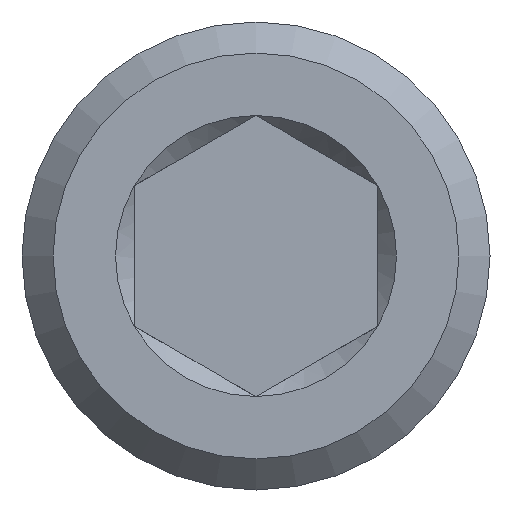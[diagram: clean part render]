
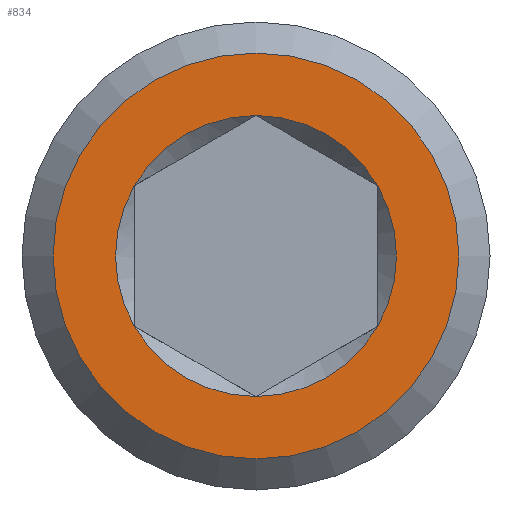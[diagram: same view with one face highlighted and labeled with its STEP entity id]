
A CAD part, front view. The second image highlights one B-rep face of the part: STEP entity #834.
In plain terms, the highlighted planar face has unit normal (0, -1, 0).
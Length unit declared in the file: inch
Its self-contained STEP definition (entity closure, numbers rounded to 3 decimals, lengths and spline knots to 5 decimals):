
#22=FACE_BOUND('',#176,.T.);
#66=CIRCLE('',#896,0.09);
#67=CIRCLE('',#898,0.09);
#68=CIRCLE('',#900,0.09);
#69=CIRCLE('',#902,0.09);
#70=CIRCLE('',#904,0.09);
#71=CIRCLE('',#906,0.09);
#80=CIRCLE('',#927,0.13);
#126=FACE_OUTER_BOUND('',#175,.T.);
#175=EDGE_LOOP('',(#710));
#176=EDGE_LOOP('',(#711,#712,#713,#714,#715,#716,#717,#718,#719,#720,#721,
#722,#723,#724,#725,#726,#727,#728));
#227=LINE('',#1382,#286);
#231=LINE('',#1389,#290);
#232=LINE('',#1396,#291);
#235=LINE('',#1401,#294);
#236=LINE('',#1408,#295);
#239=LINE('',#1413,#298);
#240=LINE('',#1421,#299);
#243=LINE('',#1425,#302);
#244=LINE('',#1433,#303);
#247=LINE('',#1437,#306);
#248=LINE('',#1444,#307);
#250=LINE('',#1446,#309);
#286=VECTOR('',#1024,0.3937);
#290=VECTOR('',#1028,0.3937);
#291=VECTOR('',#1031,0.3937);
#294=VECTOR('',#1034,0.3937);
#295=VECTOR('',#1037,0.3937);
#298=VECTOR('',#1040,0.3937);
#299=VECTOR('',#1043,0.3937);
#302=VECTOR('',#1046,0.3937);
#303=VECTOR('',#1049,0.3937);
#306=VECTOR('',#1052,0.3937);
#307=VECTOR('',#1055,0.3937);
#309=VECTOR('',#1057,0.3937);
#359=VERTEX_POINT('',#1376);
#360=VERTEX_POINT('',#1377);
#361=VERTEX_POINT('',#1381);
#364=VERTEX_POINT('',#1387);
#365=VERTEX_POINT('',#1391);
#366=VERTEX_POINT('',#1392);
#368=VERTEX_POINT('',#1399);
#369=VERTEX_POINT('',#1403);
#370=VERTEX_POINT('',#1404);
#372=VERTEX_POINT('',#1411);
#373=VERTEX_POINT('',#1415);
#374=VERTEX_POINT('',#1416);
#375=VERTEX_POINT('',#1420);
#377=VERTEX_POINT('',#1427);
#378=VERTEX_POINT('',#1428);
#379=VERTEX_POINT('',#1432);
#381=VERTEX_POINT('',#1439);
#382=VERTEX_POINT('',#1440);
#393=VERTEX_POINT('',#1533);
#454=EDGE_CURVE('',#361,#359,#227,.T.);
#458=EDGE_CURVE('',#360,#364,#231,.T.);
#460=EDGE_CURVE('',#364,#365,#232,.T.);
#463=EDGE_CURVE('',#366,#368,#235,.T.);
#465=EDGE_CURVE('',#368,#369,#236,.T.);
#468=EDGE_CURVE('',#370,#372,#239,.T.);
#470=EDGE_CURVE('',#375,#373,#240,.T.);
#473=EDGE_CURVE('',#374,#361,#243,.T.);
#475=EDGE_CURVE('',#379,#377,#244,.T.);
#478=EDGE_CURVE('',#378,#375,#247,.T.);
#480=EDGE_CURVE('',#372,#381,#248,.T.);
#482=EDGE_CURVE('',#382,#379,#250,.T.);
#483=EDGE_CURVE('',#366,#365,#66,.T.);
#484=EDGE_CURVE('',#370,#369,#67,.T.);
#485=EDGE_CURVE('',#382,#381,#68,.T.);
#486=EDGE_CURVE('',#378,#377,#69,.T.);
#487=EDGE_CURVE('',#374,#373,#70,.T.);
#488=EDGE_CURVE('',#360,#359,#71,.T.);
#509=EDGE_CURVE('',#393,#393,#80,.T.);
#710=ORIENTED_EDGE('',*,*,#509,.F.);
#711=ORIENTED_EDGE('',*,*,#454,.T.);
#712=ORIENTED_EDGE('',*,*,#488,.F.);
#713=ORIENTED_EDGE('',*,*,#458,.T.);
#714=ORIENTED_EDGE('',*,*,#460,.T.);
#715=ORIENTED_EDGE('',*,*,#483,.F.);
#716=ORIENTED_EDGE('',*,*,#463,.T.);
#717=ORIENTED_EDGE('',*,*,#465,.T.);
#718=ORIENTED_EDGE('',*,*,#484,.F.);
#719=ORIENTED_EDGE('',*,*,#468,.T.);
#720=ORIENTED_EDGE('',*,*,#480,.T.);
#721=ORIENTED_EDGE('',*,*,#485,.F.);
#722=ORIENTED_EDGE('',*,*,#482,.T.);
#723=ORIENTED_EDGE('',*,*,#475,.T.);
#724=ORIENTED_EDGE('',*,*,#486,.F.);
#725=ORIENTED_EDGE('',*,*,#478,.T.);
#726=ORIENTED_EDGE('',*,*,#470,.T.);
#727=ORIENTED_EDGE('',*,*,#487,.F.);
#728=ORIENTED_EDGE('',*,*,#473,.T.);
#793=PLANE('',#926);
#834=ADVANCED_FACE('',(#126,#22),#793,.T.);
#896=AXIS2_PLACEMENT_3D('',#1448,#1060,#1061);
#898=AXIS2_PLACEMENT_3D('',#1450,#1064,#1065);
#900=AXIS2_PLACEMENT_3D('',#1452,#1068,#1069);
#902=AXIS2_PLACEMENT_3D('',#1454,#1072,#1073);
#904=AXIS2_PLACEMENT_3D('',#1456,#1076,#1077);
#906=AXIS2_PLACEMENT_3D('',#1458,#1080,#1081);
#926=AXIS2_PLACEMENT_3D('',#1532,#1128,#1129);
#927=AXIS2_PLACEMENT_3D('',#1534,#1130,#1131);
#1024=DIRECTION('',(0.,0.,1.));
#1028=DIRECTION('',(0.,0.,1.));
#1031=DIRECTION('',(0.866,0.,0.5));
#1034=DIRECTION('',(0.866,0.,0.5));
#1037=DIRECTION('',(0.866,0.,-0.5));
#1040=DIRECTION('',(0.866,0.,-0.5));
#1043=DIRECTION('',(-0.866,0.,0.5));
#1046=DIRECTION('',(-0.866,0.,0.5));
#1049=DIRECTION('',(-0.866,0.,-0.5));
#1052=DIRECTION('',(-0.866,0.,-0.5));
#1055=DIRECTION('',(0.,0.,-1.));
#1057=DIRECTION('',(0.,0.,-1.));
#1060=DIRECTION('center_axis',(0.,-1.,0.));
#1061=DIRECTION('ref_axis',(0.,0.,1.));
#1064=DIRECTION('center_axis',(0.,-1.,0.));
#1065=DIRECTION('ref_axis',(0.,0.,1.));
#1068=DIRECTION('center_axis',(0.,-1.,0.));
#1069=DIRECTION('ref_axis',(0.,0.,1.));
#1072=DIRECTION('center_axis',(0.,-1.,0.));
#1073=DIRECTION('ref_axis',(0.,0.,1.));
#1076=DIRECTION('center_axis',(0.,-1.,0.));
#1077=DIRECTION('ref_axis',(0.,0.,1.));
#1080=DIRECTION('center_axis',(0.,-1.,0.));
#1081=DIRECTION('ref_axis',(0.,0.,1.));
#1128=DIRECTION('center_axis',(0.,-1.,0.));
#1129=DIRECTION('ref_axis',(0.,0.,-1.));
#1130=DIRECTION('center_axis',(0.,1.,0.));
#1131=DIRECTION('ref_axis',(0.,0.,1.));
#1376=CARTESIAN_POINT('',(-0.078,0.,-0.0449));
#1377=CARTESIAN_POINT('',(-0.078,0.,0.0449));
#1381=CARTESIAN_POINT('',(-0.078,0.,-0.04503));
#1382=CARTESIAN_POINT('',(-0.078,0.,-0.06002));
#1387=CARTESIAN_POINT('',(-0.078,0.,0.04503));
#1389=CARTESIAN_POINT('',(-0.078,0.,-0.06002));
#1391=CARTESIAN_POINT('',(-0.07788,0.,0.0451));
#1392=CARTESIAN_POINT('',(-0.00012,0.,0.09));
#1396=CARTESIAN_POINT('',(-0.07474,0.,0.04692));
#1399=CARTESIAN_POINT('',(0.,0.,0.09007));
#1401=CARTESIAN_POINT('',(-0.07474,0.,0.04692));
#1403=CARTESIAN_POINT('',(0.00012,0.,0.09));
#1404=CARTESIAN_POINT('',(0.07788,0.,0.0451));
#1408=CARTESIAN_POINT('',(0.03574,0.,0.06943));
#1411=CARTESIAN_POINT('',(0.078,0.,0.04503));
#1413=CARTESIAN_POINT('',(0.03574,0.,0.06943));
#1415=CARTESIAN_POINT('',(-0.00012,0.,-0.09));
#1416=CARTESIAN_POINT('',(-0.07788,0.,-0.0451));
#1420=CARTESIAN_POINT('',(0.,0.,-0.09007));
#1421=CARTESIAN_POINT('',(-0.00326,0.,-0.08818));
#1425=CARTESIAN_POINT('',(-0.00326,0.,-0.08818));
#1427=CARTESIAN_POINT('',(0.07788,0.,-0.0451));
#1428=CARTESIAN_POINT('',(0.00012,0.,-0.09));
#1432=CARTESIAN_POINT('',(0.078,0.,-0.04503));
#1433=CARTESIAN_POINT('',(0.04226,0.,-0.06567));
#1437=CARTESIAN_POINT('',(0.04226,0.,-0.06567));
#1439=CARTESIAN_POINT('',(0.078,0.,0.0449));
#1440=CARTESIAN_POINT('',(0.078,0.,-0.0449));
#1444=CARTESIAN_POINT('',(0.078,0.,-0.01498));
#1446=CARTESIAN_POINT('',(0.078,0.,-0.01498));
#1448=CARTESIAN_POINT('Origin',(0.,0.,0.));
#1450=CARTESIAN_POINT('Origin',(0.,0.,0.));
#1452=CARTESIAN_POINT('Origin',(0.,0.,0.));
#1454=CARTESIAN_POINT('Origin',(0.,0.,0.));
#1456=CARTESIAN_POINT('Origin',(0.,0.,0.));
#1458=CARTESIAN_POINT('Origin',(0.,0.,0.));
#1532=CARTESIAN_POINT('Origin',(0.,0.,-0.075));
#1533=CARTESIAN_POINT('',(0.,0.,-0.13));
#1534=CARTESIAN_POINT('Origin',(0.,0.,0.));
